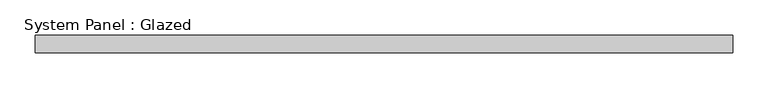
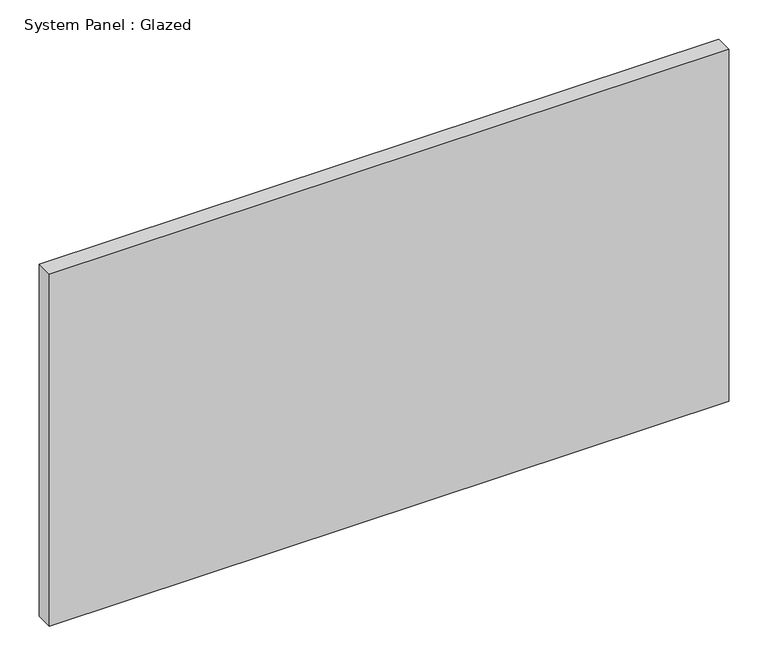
"""IFC4 building model written with IfcOpenShell, lengths in millimetres: plate geometry, System Panel : Glazed."""

from ifc_helpers import new_model, si_unit, origin, origin_with_axes, place, context, project, spatial, polyline, outline, extrude, source, transform, mapped, element, save


def system_panel_glazed_c96e4c1c(model_context):
    return source(origin(), model_context, "Body", "SweptSolid", [
        extrude(outline(polyline([(498.475, -44.45), (-498.475, -44.45), (-498.475, -19.05), (498.475, -19.05), (498.475, -44.45)])), origin_with_axes(), (0.0, 0.0, 1.0), 546.1),
    ])


if __name__ == "__main__":
    model = new_model("IFC4")
    model_context = context("Model", 3, world=origin())
    ifc_project = project(units=[si_unit("LENGTHUNIT", "METRE", prefix="MILLI")], contexts=[model_context])
    site = spatial("IfcSite", under=ifc_project)
    building = spatial("IfcBuilding", under=site)
    placement = place(None, origin())
    system_panel_glazed_shape = system_panel_glazed_c96e4c1c(model_context)
    element("IfcPlate", 1, ObjectType="System Panel : Glazed", at=placement, inside=building, context=model_context, shape_type="MappedRepresentation", body=[
        mapped(system_panel_glazed_shape, transform((0.0, 0.0, 0.0), x_axis=(1.0, 0.0, 0.0), y_axis=(0.0, 1.0, 0.0), z_axis=(0.0, 0.0, 1.0))),
    ])
    save(model, "model.ifc")
